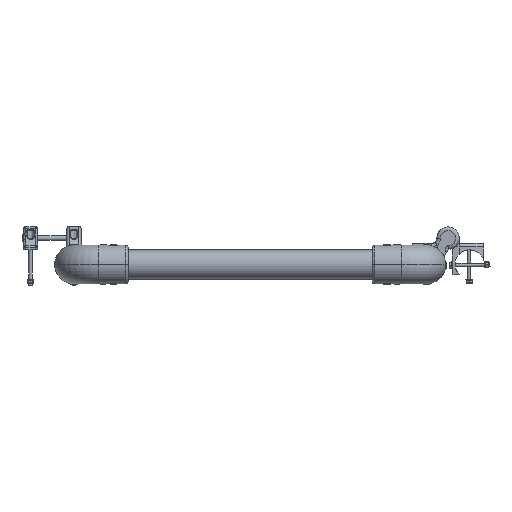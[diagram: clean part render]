
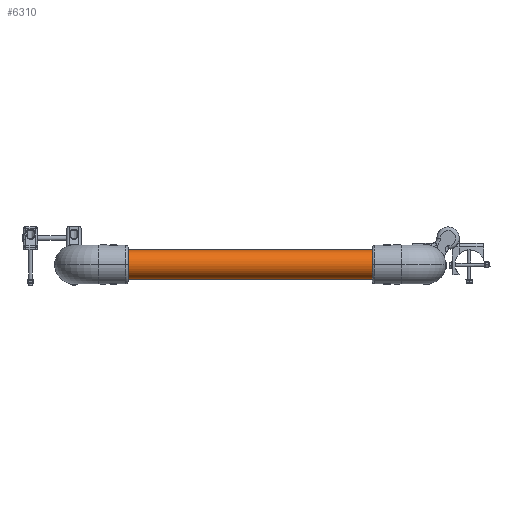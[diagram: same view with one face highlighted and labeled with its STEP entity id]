
A CAD part, front view. The second image highlights one B-rep face of the part: STEP entity #6310.
In plain terms, the highlighted cylindrical face has radius 25 mm (diameter 50 mm), a full revolution.
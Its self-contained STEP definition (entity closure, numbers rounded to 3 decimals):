
#870=LINE('',#10813,#1264);
#1264=VECTOR('',#8350,25.);
#1600=CYLINDRICAL_SURFACE('',#7255,25.);
#1773=FACE_OUTER_BOUND('',#2182,.T.);
#2182=EDGE_LOOP('',(#4730,#4731,#4732,#4733));
#2603=CIRCLE('',#7251,25.);
#2606=CIRCLE('',#7256,25.);
#3031=VERTEX_POINT('',#10802);
#3034=VERTEX_POINT('',#10811);
#3651=EDGE_CURVE('',#3031,#3031,#2603,.T.);
#3655=EDGE_CURVE('',#3034,#3034,#2606,.T.);
#3656=EDGE_CURVE('',#3034,#3031,#870,.T.);
#4730=ORIENTED_EDGE('',*,*,#3655,.F.);
#4731=ORIENTED_EDGE('',*,*,#3656,.T.);
#4732=ORIENTED_EDGE('',*,*,#3651,.F.);
#4733=ORIENTED_EDGE('',*,*,#3656,.F.);
#6310=ADVANCED_FACE('',(#1773),#1600,.T.);
#7251=AXIS2_PLACEMENT_3D('',#10803,#8337,#8338);
#7255=AXIS2_PLACEMENT_3D('',#10810,#8346,#8347);
#7256=AXIS2_PLACEMENT_3D('',#10812,#8348,#8349);
#8337=DIRECTION('center_axis',(0.,0.,-1.));
#8338=DIRECTION('ref_axis',(1.,0.,0.));
#8346=DIRECTION('center_axis',(0.,0.,1.));
#8347=DIRECTION('ref_axis',(1.,0.,0.));
#8348=DIRECTION('center_axis',(0.,0.,1.));
#8349=DIRECTION('ref_axis',(1.,0.,0.));
#8350=DIRECTION('',(0.,0.,-1.));
#10802=CARTESIAN_POINT('',(-25.,0.,-258.));
#10803=CARTESIAN_POINT('Origin',(0.,0.,-258.));
#10810=CARTESIAN_POINT('Origin',(0.,0.,0.));
#10811=CARTESIAN_POINT('',(-25.,0.,258.));
#10812=CARTESIAN_POINT('Origin',(0.,0.,258.));
#10813=CARTESIAN_POINT('',(-25.,0.,0.));
